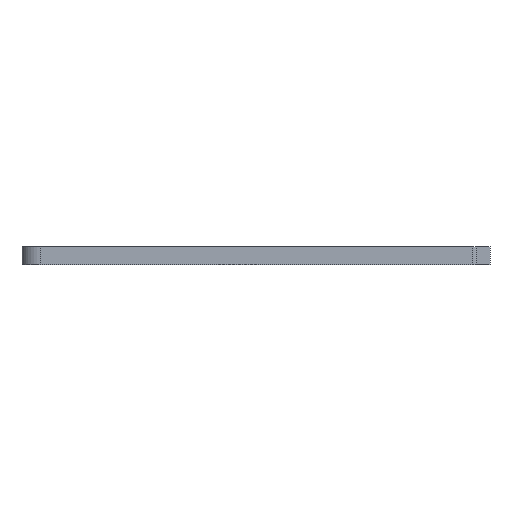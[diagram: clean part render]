
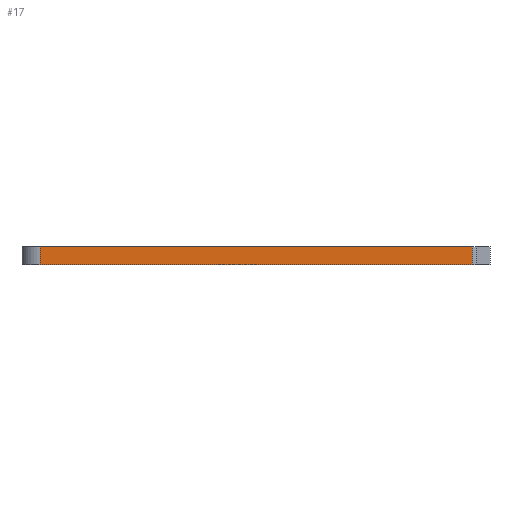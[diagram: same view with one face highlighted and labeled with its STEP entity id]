
A CAD part, front view. The second image highlights one B-rep face of the part: STEP entity #17.
In plain terms, the highlighted planar face has unit normal (0, -1, 0).
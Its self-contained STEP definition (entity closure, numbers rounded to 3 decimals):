
#17 = ADVANCED_FACE('',(#18),#32,.F.);
#18 = FACE_BOUND('',#19,.F.);
#19 = EDGE_LOOP('',(#20,#55,#83,#111));
#20 = ORIENTED_EDGE('',*,*,#21,.T.);
#21 = EDGE_CURVE('',#22,#24,#26,.T.);
#22 = VERTEX_POINT('',#23);
#23 = CARTESIAN_POINT('',(6.,16.,28.));
#24 = VERTEX_POINT('',#25);
#25 = CARTESIAN_POINT('',(6.,16.,30.));
#26 = SURFACE_CURVE('',#27,(#31,#43),.PCURVE_S1.);
#27 = LINE('',#28,#29);
#28 = CARTESIAN_POINT('',(6.,16.,28.));
#29 = VECTOR('',#30,1.);
#30 = DIRECTION('',(0.,0.,1.));
#31 = PCURVE('',#32,#37);
#32 = PLANE('',#33);
#33 = AXIS2_PLACEMENT_3D('',#34,#35,#36);
#34 = CARTESIAN_POINT('',(6.,16.,28.));
#35 = DIRECTION('',(0.,1.,0.));
#36 = DIRECTION('',(1.,0.,0.));
#37 = DEFINITIONAL_REPRESENTATION('',(#38),#42);
#38 = LINE('',#39,#40);
#39 = CARTESIAN_POINT('',(0.,0.));
#40 = VECTOR('',#41,1.);
#41 = DIRECTION('',(0.,-1.));
#42 = ( GEOMETRIC_REPRESENTATION_CONTEXT(2) 
PARAMETRIC_REPRESENTATION_CONTEXT() REPRESENTATION_CONTEXT('2D SPACE',''
  ) );
#43 = PCURVE('',#44,#49);
#44 = CYLINDRICAL_SURFACE('',#45,2.);
#45 = AXIS2_PLACEMENT_3D('',#46,#47,#48);
#46 = CARTESIAN_POINT('',(6.,18.,28.));
#47 = DIRECTION('',(-0.,-0.,-1.));
#48 = DIRECTION('',(-1.,0.,0.));
#49 = DEFINITIONAL_REPRESENTATION('',(#50),#54);
#50 = LINE('',#51,#52);
#51 = CARTESIAN_POINT('',(-1.571,0.));
#52 = VECTOR('',#53,1.);
#53 = DIRECTION('',(-0.,-1.));
#54 = ( GEOMETRIC_REPRESENTATION_CONTEXT(2) 
PARAMETRIC_REPRESENTATION_CONTEXT() REPRESENTATION_CONTEXT('2D SPACE',''
  ) );
#55 = ORIENTED_EDGE('',*,*,#56,.T.);
#56 = EDGE_CURVE('',#24,#57,#59,.T.);
#57 = VERTEX_POINT('',#58);
#58 = CARTESIAN_POINT('',(54.,16.,30.));
#59 = SURFACE_CURVE('',#60,(#64,#71),.PCURVE_S1.);
#60 = LINE('',#61,#62);
#61 = CARTESIAN_POINT('',(6.,16.,30.));
#62 = VECTOR('',#63,1.);
#63 = DIRECTION('',(1.,0.,0.));
#64 = PCURVE('',#32,#65);
#65 = DEFINITIONAL_REPRESENTATION('',(#66),#70);
#66 = LINE('',#67,#68);
#67 = CARTESIAN_POINT('',(0.,-2.));
#68 = VECTOR('',#69,1.);
#69 = DIRECTION('',(1.,0.));
#70 = ( GEOMETRIC_REPRESENTATION_CONTEXT(2) 
PARAMETRIC_REPRESENTATION_CONTEXT() REPRESENTATION_CONTEXT('2D SPACE',''
  ) );
#71 = PCURVE('',#72,#77);
#72 = PLANE('',#73);
#73 = AXIS2_PLACEMENT_3D('',#74,#75,#76);
#74 = CARTESIAN_POINT('',(30.,51.5,30.));
#75 = DIRECTION('',(0.,0.,1.));
#76 = DIRECTION('',(1.,0.,-0.));
#77 = DEFINITIONAL_REPRESENTATION('',(#78),#82);
#78 = LINE('',#79,#80);
#79 = CARTESIAN_POINT('',(-24.,-35.5));
#80 = VECTOR('',#81,1.);
#81 = DIRECTION('',(1.,0.));
#82 = ( GEOMETRIC_REPRESENTATION_CONTEXT(2) 
PARAMETRIC_REPRESENTATION_CONTEXT() REPRESENTATION_CONTEXT('2D SPACE',''
  ) );
#83 = ORIENTED_EDGE('',*,*,#84,.F.);
#84 = EDGE_CURVE('',#85,#57,#87,.T.);
#85 = VERTEX_POINT('',#86);
#86 = CARTESIAN_POINT('',(54.,16.,28.));
#87 = SURFACE_CURVE('',#88,(#92,#99),.PCURVE_S1.);
#88 = LINE('',#89,#90);
#89 = CARTESIAN_POINT('',(54.,16.,28.));
#90 = VECTOR('',#91,1.);
#91 = DIRECTION('',(0.,0.,1.));
#92 = PCURVE('',#32,#93);
#93 = DEFINITIONAL_REPRESENTATION('',(#94),#98);
#94 = LINE('',#95,#96);
#95 = CARTESIAN_POINT('',(48.,0.));
#96 = VECTOR('',#97,1.);
#97 = DIRECTION('',(0.,-1.));
#98 = ( GEOMETRIC_REPRESENTATION_CONTEXT(2) 
PARAMETRIC_REPRESENTATION_CONTEXT() REPRESENTATION_CONTEXT('2D SPACE',''
  ) );
#99 = PCURVE('',#100,#105);
#100 = CYLINDRICAL_SURFACE('',#101,2.);
#101 = AXIS2_PLACEMENT_3D('',#102,#103,#104);
#102 = CARTESIAN_POINT('',(54.,18.,28.));
#103 = DIRECTION('',(-0.,-0.,-1.));
#104 = DIRECTION('',(0.,-1.,0.));
#105 = DEFINITIONAL_REPRESENTATION('',(#106),#110);
#106 = LINE('',#107,#108);
#107 = CARTESIAN_POINT('',(-0.,0.));
#108 = VECTOR('',#109,1.);
#109 = DIRECTION('',(-0.,-1.));
#110 = ( GEOMETRIC_REPRESENTATION_CONTEXT(2) 
PARAMETRIC_REPRESENTATION_CONTEXT() REPRESENTATION_CONTEXT('2D SPACE',''
  ) );
#111 = ORIENTED_EDGE('',*,*,#112,.F.);
#112 = EDGE_CURVE('',#22,#85,#113,.T.);
#113 = SURFACE_CURVE('',#114,(#118,#125),.PCURVE_S1.);
#114 = LINE('',#115,#116);
#115 = CARTESIAN_POINT('',(6.,16.,28.));
#116 = VECTOR('',#117,1.);
#117 = DIRECTION('',(1.,0.,0.));
#118 = PCURVE('',#32,#119);
#119 = DEFINITIONAL_REPRESENTATION('',(#120),#124);
#120 = LINE('',#121,#122);
#121 = CARTESIAN_POINT('',(0.,0.));
#122 = VECTOR('',#123,1.);
#123 = DIRECTION('',(1.,0.));
#124 = ( GEOMETRIC_REPRESENTATION_CONTEXT(2) 
PARAMETRIC_REPRESENTATION_CONTEXT() REPRESENTATION_CONTEXT('2D SPACE',''
  ) );
#125 = PCURVE('',#126,#131);
#126 = PLANE('',#127);
#127 = AXIS2_PLACEMENT_3D('',#128,#129,#130);
#128 = CARTESIAN_POINT('',(30.,51.5,28.));
#129 = DIRECTION('',(0.,0.,1.));
#130 = DIRECTION('',(1.,0.,-0.));
#131 = DEFINITIONAL_REPRESENTATION('',(#132),#136);
#132 = LINE('',#133,#134);
#133 = CARTESIAN_POINT('',(-24.,-35.5));
#134 = VECTOR('',#135,1.);
#135 = DIRECTION('',(1.,0.));
#136 = ( GEOMETRIC_REPRESENTATION_CONTEXT(2) 
PARAMETRIC_REPRESENTATION_CONTEXT() REPRESENTATION_CONTEXT('2D SPACE',''
  ) );
